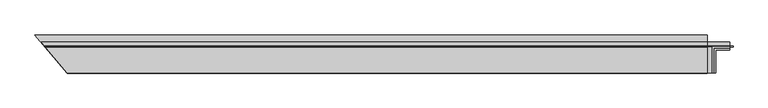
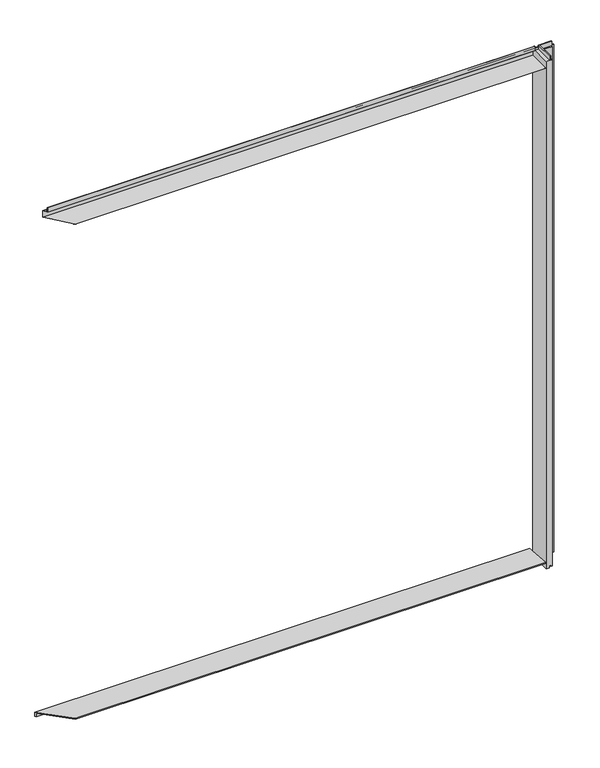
"""IFC4 building model written with IfcOpenShell, lengths in millimetres: plate geometry, Trimo_Qbiss Screen_Wall Opening Trims-HORIZONTAL : HR - B."""

from ifc_helpers import new_model, si_unit, frame, origin, origin_with_axes, place, context, project, spatial, polyline, outline, extrude, faceted_brep, source, transform, mapped, element, save


def plate_9f02b672(model_context):
    return source(origin(), model_context, "Body", "SolidModel", [
        faceted_brep([(1674.0, -92.0, 4487.0), (1645.0, -92.0, 4487.0), (1645.0, -92.0, 0.0), (1673.0, -92.0, 0.0), (1673.0, -92.0, 15.5), (1683.0, -92.0, 15.5), (1683.0, -92.0, 7.0), (1695.0, -92.0, 7.0), (1695.0, -92.0, 4487.0), (1682.0, -92.0, 4487.0), (1682.0, -92.0, 4524.5), (1674.0, -92.0, 4524.5), (1645.0, 100.0, 0.0), (1645.0, 100.0, 4487.0), (1780.0, 100.0, 4487.0), (1780.0, 100.0, 0.0), (1673.0, 72.0, 15.5), (1673.0, 72.0, 0.0), (1780.0, 72.0, 0.0), (1780.0, 72.0, 15.5), (1683.0, 62.0, 7.0), (1683.0, 62.0, 15.5), (1780.0, 62.0, 15.5), (1780.0, 62.0, 7.0), (1695.0, 50.0, 4487.0), (1695.0, 50.0, 7.0), (1780.0, 50.0, 7.0), (1780.0, 50.0, 4487.0), (1682.0, 63.0, 4524.5), (1682.0, 63.0, 4487.0), (1780.0, 63.0, 4487.0), (1780.0, 63.0, 4524.5), (1674.0, 71.0, 4487.0), (1674.0, 71.0, 4524.5), (1780.0, 71.0, 4524.5), (1780.0, 71.0, 4487.0)], [[[0, 1, 2, 3, 4, 5, 6, 7, 8, 9, 10, 11]], [[12, 13, 14, 15]], [[16, 17, 18, 19]], [[20, 21, 22, 23]], [[24, 25, 26, 27]], [[28, 29, 30, 31]], [[32, 33, 34, 35]], [[35, 34, 31, 30, 27, 26, 23, 22, 19, 18, 15, 14]], [[1, 0, 32, 35, 14, 13]], [[2, 1, 13, 12]], [[3, 2, 12, 15, 18, 17]], [[4, 3, 17, 16]], [[5, 4, 16, 19, 22, 21]], [[6, 5, 21, 20]], [[7, 6, 20, 23, 26, 25]], [[8, 7, 25, 24]], [[9, 8, 24, 27, 30, 29]], [[10, 9, 29, 28]], [[11, 10, 28, 31, 34, 33]], [[0, 11, 33, 32]]]),
        extrude(outline(polyline([(1783.0, 76.5978162), (1802.0, 76.5978162), (1802.0, 67.8978162), (1783.0, 67.8978162), (1783.0, 76.5978162)])), origin_with_axes(), (0.0, 0.0, 1.0), 4487.0),
        faceted_brep([(1643.0, 71.0, 4487.0), (1643.0, 71.0, 4524.5), (1643.0, 70.0, 4524.5), (1643.0, 70.0, 4486.0), (1643.0, 99.0, 4486.0), (1643.0, 99.0, 4430.0), (1643.0, -92.0, 4430.0), (1643.0, -92.0, 4429.0), (1643.0, 100.0, 4429.0), (1643.0, 100.0, 4487.0), (-2430.6661107, 71.0, 4487.0), (-2430.6661107, 71.0, 4524.5), (-2429.8270111, 70.0, 4524.5), (-2429.8270111, 70.0, 4486.0), (-2454.1609004, 99.0, 4486.0), (-2454.1609004, 99.0, 4430.0), (-2293.8928708, -92.0, 4430.0), (-2293.8928708, -92.0, 4429.0), (-2455.0, 100.0, 4429.0), (-2455.0, 100.0, 4487.0)], [[[0, 1, 2, 3, 4, 5, 6, 7, 8, 9]], [[1, 0, 10, 11]], [[2, 1, 11, 12]], [[3, 2, 12, 13]], [[4, 3, 13, 14]], [[5, 4, 14, 15]], [[6, 5, 15, 16]], [[7, 6, 16, 17]], [[8, 7, 17, 18]], [[9, 8, 18, 19]], [[0, 9, 19, 10]], [[11, 10, 19, 18, 17, 16, 15, 14, 13, 12]]]),
        faceted_brep([(1643.0, 138.0, 29.8042278), (1643.0, 138.0, 0.0), (1643.0, 145.0, 0.0), (1643.0, 145.0, 36.234396), (1643.0, -92.0, 56.3821274), (1643.0, -92.0, 49.3568786), (-2486.885786, 138.0, 29.8042278), (-2486.885786, 138.0, 0.0), (-2492.7594834, 145.0, 0.0), (-2492.7594834, 145.0, 36.234396), (-2293.8928708, -92.0, 56.3821274), (-2293.8928708, -92.0, 49.3568786)], [[[0, 1, 2, 3, 4, 5]], [[1, 0, 6, 7]], [[2, 1, 7, 8]], [[3, 2, 8, 9]], [[4, 3, 9, 10]], [[5, 4, 10, 11]], [[0, 5, 11, 6]], [[7, 6, 11, 10, 9, 8]]]),
        extrude(outline(polyline([(1780.0, 76.0), (1780.0, 71.0), (-2430.6661107, 71.0), (-2434.8616089, 76.0), (1780.0, 76.0)])), frame((0.0, 0.0, 4488.0), z_axis=(0.0, 0.0, 1.0), x_axis=(1.0, 0.0, 0.0)), (0.0, 0.0, 1.0), 21.0),
    ])


if __name__ == "__main__":
    model = new_model("IFC4")
    model_context = context("Model", 3, world=origin())
    ifc_project = project(units=[si_unit("LENGTHUNIT", "METRE", prefix="MILLI")], contexts=[model_context])
    site = spatial("IfcSite", under=ifc_project)
    building = spatial("IfcBuilding", under=site)
    placement = place(None, origin())
    plate_shape = plate_9f02b672(model_context)
    element("IfcPlate", 1, ObjectType="Trimo_Qbiss Screen_Wall Opening Trims-HORIZONTAL : HR - B", at=placement, inside=building, context=model_context, shape_type="MappedRepresentation", body=[
        mapped(plate_shape, transform((0.0, 0.0, 0.0), x_axis=(1.0, 0.0, 0.0), y_axis=(0.0, 1.0, 0.0), z_axis=(0.0, 0.0, 1.0))),
    ])
    save(model, "model.ifc")
